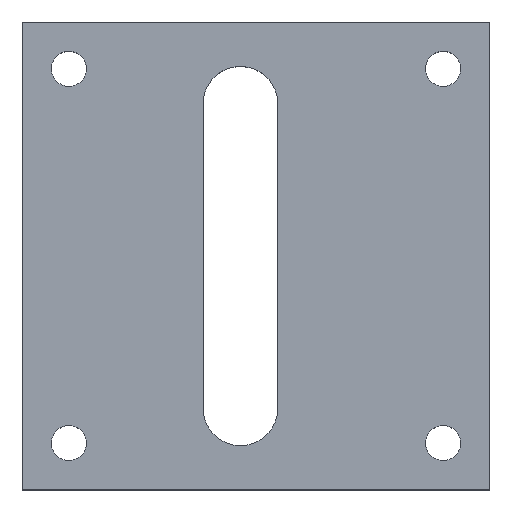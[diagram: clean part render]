
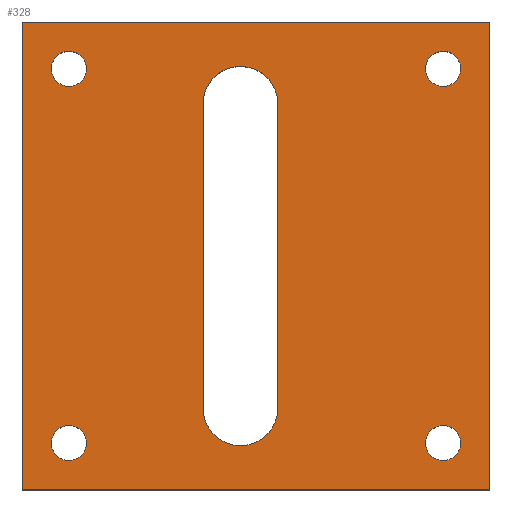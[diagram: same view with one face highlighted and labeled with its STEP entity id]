
A CAD part, top view. The second image highlights one B-rep face of the part: STEP entity #328.
In plain terms, the highlighted planar face has unit normal (0, 0, 1).
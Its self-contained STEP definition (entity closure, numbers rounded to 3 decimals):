
#24=FACE_BOUND('',#96,.T.);
#25=FACE_BOUND('',#97,.T.);
#26=FACE_BOUND('',#98,.T.);
#27=FACE_BOUND('',#99,.T.);
#28=FACE_BOUND('',#100,.T.);
#39=CIRCLE('',#346,3.2);
#44=CIRCLE('',#354,3.2);
#45=CIRCLE('',#357,1.5);
#46=CIRCLE('',#359,1.5);
#47=CIRCLE('',#361,1.5);
#48=CIRCLE('',#363,1.5);
#68=FACE_OUTER_BOUND('',#95,.T.);
#95=EDGE_LOOP('',(#289,#290,#291,#292));
#96=EDGE_LOOP('',(#293,#294,#295,#296));
#97=EDGE_LOOP('',(#297));
#98=EDGE_LOOP('',(#298));
#99=EDGE_LOOP('',(#299));
#100=EDGE_LOOP('',(#300));
#112=LINE('',#495,#138);
#118=LINE('',#518,#144);
#120=LINE('',#535,#146);
#122=LINE('',#539,#148);
#124=LINE('',#543,#150);
#126=LINE('',#546,#152);
#138=VECTOR('',#404,10.);
#144=VECTOR('',#426,10.);
#146=VECTOR('',#446,10.);
#148=VECTOR('',#450,10.);
#150=VECTOR('',#454,10.);
#152=VECTOR('',#458,10.);
#161=VERTEX_POINT('',#487);
#162=VERTEX_POINT('',#489);
#163=VERTEX_POINT('',#493);
#172=VERTEX_POINT('',#514);
#173=VERTEX_POINT('',#520);
#174=VERTEX_POINT('',#523);
#175=VERTEX_POINT('',#526);
#176=VERTEX_POINT('',#529);
#177=VERTEX_POINT('',#532);
#178=VERTEX_POINT('',#534);
#179=VERTEX_POINT('',#538);
#180=VERTEX_POINT('',#542);
#194=EDGE_CURVE('',#162,#161,#39,.T.);
#197=EDGE_CURVE('',#161,#163,#112,.T.);
#207=EDGE_CURVE('',#163,#172,#44,.T.);
#208=EDGE_CURVE('',#172,#162,#118,.T.);
#209=EDGE_CURVE('',#173,#173,#45,.T.);
#210=EDGE_CURVE('',#174,#174,#46,.T.);
#211=EDGE_CURVE('',#175,#175,#47,.T.);
#212=EDGE_CURVE('',#176,#176,#48,.T.);
#214=EDGE_CURVE('',#178,#177,#120,.T.);
#216=EDGE_CURVE('',#179,#178,#122,.T.);
#218=EDGE_CURVE('',#180,#179,#124,.T.);
#220=EDGE_CURVE('',#177,#180,#126,.T.);
#289=ORIENTED_EDGE('',*,*,#220,.T.);
#290=ORIENTED_EDGE('',*,*,#218,.T.);
#291=ORIENTED_EDGE('',*,*,#216,.T.);
#292=ORIENTED_EDGE('',*,*,#214,.T.);
#293=ORIENTED_EDGE('',*,*,#207,.T.);
#294=ORIENTED_EDGE('',*,*,#208,.T.);
#295=ORIENTED_EDGE('',*,*,#194,.T.);
#296=ORIENTED_EDGE('',*,*,#197,.T.);
#297=ORIENTED_EDGE('',*,*,#209,.T.);
#298=ORIENTED_EDGE('',*,*,#210,.T.);
#299=ORIENTED_EDGE('',*,*,#211,.T.);
#300=ORIENTED_EDGE('',*,*,#212,.T.);
#310=PLANE('',#368);
#328=ADVANCED_FACE('',(#68,#24,#25,#26,#27,#28),#310,.T.);
#346=AXIS2_PLACEMENT_3D('',#490,#398,#399);
#354=AXIS2_PLACEMENT_3D('',#516,#422,#423);
#357=AXIS2_PLACEMENT_3D('',#521,#429,#430);
#359=AXIS2_PLACEMENT_3D('',#524,#433,#434);
#361=AXIS2_PLACEMENT_3D('',#527,#437,#438);
#363=AXIS2_PLACEMENT_3D('',#530,#441,#442);
#368=AXIS2_PLACEMENT_3D('',#547,#459,#460);
#398=DIRECTION('center_axis',(0.,0.,-1.));
#399=DIRECTION('ref_axis',(1.,0.,0.));
#404=DIRECTION('',(0.,-1.,0.));
#422=DIRECTION('center_axis',(0.,0.,-1.));
#423=DIRECTION('ref_axis',(-1.,0.,0.));
#426=DIRECTION('',(0.,1.,0.));
#429=DIRECTION('center_axis',(0.,0.,-1.));
#430=DIRECTION('ref_axis',(-1.,0.,0.));
#433=DIRECTION('center_axis',(0.,0.,-1.));
#434=DIRECTION('ref_axis',(-1.,0.,0.));
#437=DIRECTION('center_axis',(0.,0.,-1.));
#438=DIRECTION('ref_axis',(-1.,0.,0.));
#441=DIRECTION('center_axis',(0.,0.,-1.));
#442=DIRECTION('ref_axis',(-1.,0.,0.));
#446=DIRECTION('',(0.,1.,0.));
#450=DIRECTION('',(1.,0.,0.));
#454=DIRECTION('',(0.,-1.,0.));
#458=DIRECTION('',(-1.,0.,0.));
#459=DIRECTION('center_axis',(0.,0.,1.));
#460=DIRECTION('ref_axis',(1.,0.,0.));
#487=CARTESIAN_POINT('',(1.869,13.,8.));
#489=CARTESIAN_POINT('',(-4.531,13.,8.));
#490=CARTESIAN_POINT('Origin',(-1.331,13.,8.));
#493=CARTESIAN_POINT('',(1.869,-13.016,8.));
#495=CARTESIAN_POINT('',(1.869,-6.508,8.));
#514=CARTESIAN_POINT('',(-4.531,-13.016,8.));
#516=CARTESIAN_POINT('Origin',(-1.331,-13.016,8.));
#518=CARTESIAN_POINT('',(-4.531,6.5,8.));
#520=CARTESIAN_POINT('',(17.5,-16.,8.));
#521=CARTESIAN_POINT('Origin',(16.,-16.,8.));
#523=CARTESIAN_POINT('',(-14.5,-16.,8.));
#524=CARTESIAN_POINT('Origin',(-16.,-16.,8.));
#526=CARTESIAN_POINT('',(-14.5,16.,8.));
#527=CARTESIAN_POINT('Origin',(-16.,16.,8.));
#529=CARTESIAN_POINT('',(17.5,16.,8.));
#530=CARTESIAN_POINT('Origin',(16.,16.,8.));
#532=CARTESIAN_POINT('',(20.,20.,8.));
#534=CARTESIAN_POINT('',(20.,-20.,8.));
#535=CARTESIAN_POINT('',(20.,-20.,8.));
#538=CARTESIAN_POINT('',(-20.,-20.,8.));
#539=CARTESIAN_POINT('',(-20.,-20.,8.));
#542=CARTESIAN_POINT('',(-20.,20.,8.));
#543=CARTESIAN_POINT('',(-20.,20.,8.));
#546=CARTESIAN_POINT('',(20.,20.,8.));
#547=CARTESIAN_POINT('Origin',(0.,0.,
8.));
